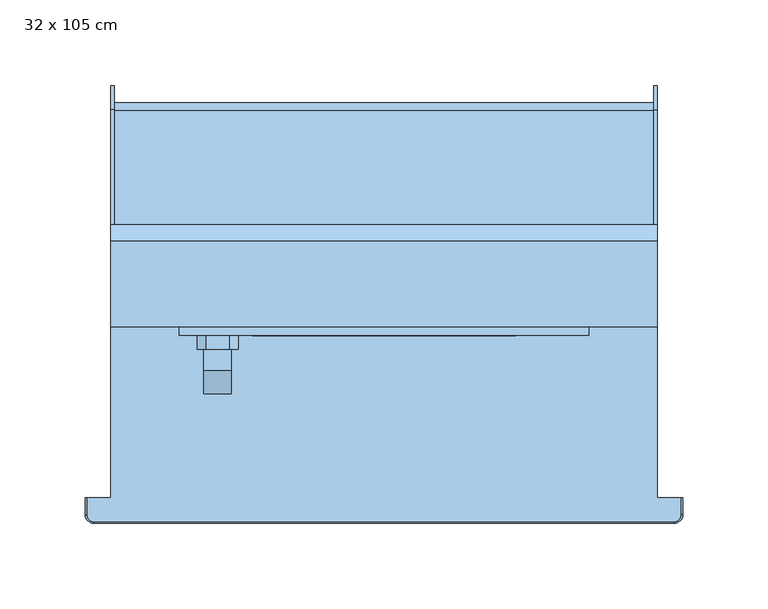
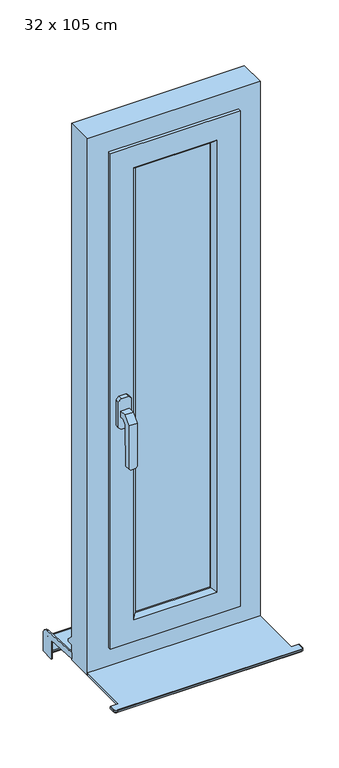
"""IFC4 building model written with IfcOpenShell, lengths in millimetres: window geometry, Fenêtre type 1 : 32 x 105 cm."""

from ifc_helpers import new_model, si_unit, frame, origin, place, context, project, spatial, polyline, circle_curve, outline, extrude, faceted_brep, source, transform, mapped, element, save
from ifc_brep_helpers import plane_surface, cylinder_surface, revolved_surface, advanced_brep


def window_32_x_105_cm_0fb57c5f(model_context):
    return source(origin(), model_context, "Body", "SolidModel", [
        faceted_brep([(-105.5, -13.0, 1306.0), (-89.5, -13.0, 1306.0), (-89.5, -13.0, 1294.0), (-105.5, -13.0, 1294.0), (-105.5, -25.4852814, 1306.0), (-89.5, -25.4852814, 1306.0), (-89.5, -39.0, 1292.4852814), (-89.5, -39.0, 1208.5355339), (-89.5, -29.7580139, 1208.5355339), (-89.5, -27.0099909, 1287.2286157), (-89.5, -27.0, 1287.5147186), (-89.5, -20.5147186, 1294.0), (-105.5, -20.5147186, 1294.0), (-105.5, -27.0, 1287.5147186), (-105.5, -27.0, 1287.2282668), (-105.5, -29.7580139, 1208.5355339), (-105.5, -39.0, 1208.5355339), (-105.5, -39.0, 1292.4852814), (-93.0355339, -39.0, 1205.0), (-101.9644661, -39.0, 1205.0), (-101.9644661, -29.8814775, 1205.0), (-93.0355339, -29.8814775, 1205.0)], [[[0, 1, 2, 3]], [[1, 0, 4, 5]], [[2, 1, 5, 6, 7, 8, 9, 10, 11]], [[3, 2, 11, 12]], [[0, 3, 12, 13, 14, 15, 16, 17, 4]], [[5, 4, 17, 6]], [[11, 10, 13, 12]], [[18, 19, 20, 21]], [[6, 17, 16, 19, 18, 7]], [[13, 10, 9, 14]], [[14, 9, 8, 21, 20, 15]], [[8, 7, 18, 21]], [[16, 15, 20, 19]]]),
        extrude(outline(polyline([(1330.0, -104.5), (1325.0, -109.5), (1275.0, -109.5), (1270.0, -104.5), (1270.0, -90.5), (1275.0, -85.5), (1325.0, -85.5), (1330.0, -90.5), (1330.0, -104.5)])), frame((0.0, -13.0, 0.0), z_axis=(0.0, 1.0, 0.0), x_axis=(0.0, 0.0, 1.0)), (0.0, 0.0, 1.0), 8.0),
        advanced_brep(
        [(-160.0, 115.0, 762.0), (-160.0, 115.0, 799.2138833), (-160.0, 50.0, 802.620389), (-160.0, 50.0, 814.1361709), (-160.0, 127.2850393, 810.0858337), (-160.0, 141.5, 795.1063906), (-160.0, 141.5, 762.0), (160.0, 115.0, 799.2138833), (160.0, 115.0, 762.0), (160.0, 141.5, 762.0), (160.0, 141.5, 795.1063906), (160.0, 127.2850393, 810.0858337), (160.0, 50.0, 814.1361709), (160.0, 50.0, 802.620389), (-158.0, 50.0, 814.1361709), (158.0, 50.0, 814.1361709), (158.0, 50.0, 804.1224475), (-158.0, 50.0, 804.1224475), (-158.0, 126.7616798, 800.0995383), (158.0, 126.7616798, 800.0995383), (158.0, 131.5, 795.1063906), (158.0, 131.5, 762.0), (-158.0, 131.5, 762.0), (-158.0, 131.5, 795.1063906), (-158.0, 130.0, 762.0), (-158.0, 115.0, 762.0), (-158.0, 141.5, 762.0), (158.0, 141.5, 762.0), (158.0, 115.0, 762.0), (158.0, 130.0, 762.0), (-158.0, 120.0, 772.0), (158.0, 120.0, 772.0), (-158.0, 121.0606602, 773.0606602), (158.0, 121.0606602, 773.0606602), (-158.0, 130.0, 764.1213203), (158.0, 130.0, 764.1213203), (-158.0, 130.0, 795.0728058), (158.0, 130.0, 795.0728058), (-158.0, 115.0, 799.2138833), (-158.0, 126.649637, 798.6033517), (158.0, 126.649637, 798.6033517), (158.0, 115.0, 799.2138833), (158.0, 127.2850393, 810.0858337), (158.0, 141.5, 795.1063906), (-158.0, 141.5, 795.1063906), (-158.0, 127.2850393, 810.0858337)],
        [
            (0, 1),
            (1, 2),
            (2, 3),
            (3, 4),
            (4, 5, circle_curve(frame((-160.0, 126.5, 795.1063906), z_axis=(-1.0, 0.0, 0.0), x_axis=(0.0, 0.05233595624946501, 0.9986295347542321)), 15.0)),
            (5, 6),
            (6, 0),
            (7, 8),
            (8, 9),
            (9, 10),
            (10, 11, circle_curve(frame((160.0, 126.5, 795.1063906), z_axis=(1.0, 0.0, 0.0), x_axis=(0.0, 1.0, 0.0)), 15.0)),
            (11, 12),
            (12, 13),
            (13, 7),
            (14, 3),
            (2, 13),
            (12, 15),
            (15, 16),
            (16, 17),
            (17, 14),
            (18, 17),
            (16, 19),
            (19, 18),
            (20, 21),
            (21, 22),
            (22, 23),
            (23, 20),
            (24, 25),
            (25, 0),
            (6, 26),
            (26, 22),
            (21, 27),
            (27, 9),
            (8, 28),
            (28, 29),
            (29, 24),
            (30, 24),
            (29, 31),
            (31, 30),
            (32, 30),
            (31, 33),
            (33, 32),
            (34, 32),
            (33, 35),
            (35, 34),
            (36, 34),
            (35, 37),
            (37, 36),
            (38, 39),
            (39, 40),
            (40, 41),
            (41, 7),
            (1, 38),
            (38, 25),
            (36, 39, circle_curve(frame((-158.0, 126.4646089, 795.0728058), z_axis=(1.0, 0.0, 0.0), x_axis=(0.0, -1.0, 0.0)), 3.5353911)),
            (28, 41),
            (40, 37, circle_curve(frame((158.0, 126.4646089, 795.0728058), z_axis=(-1.0, 0.0, 0.0), x_axis=(0.0, -1.0, 0.0)), 3.5353911)),
            (19, 20, circle_curve(frame((158.0, 126.5, 795.1063906), z_axis=(-1.0, 0.0, 0.0), x_axis=(0.0, -1.0, 0.0)), 5.0)),
            (23, 18, circle_curve(frame((-158.0, 126.5, 795.1063906), z_axis=(1.0, 0.0, 0.0), x_axis=(0.0, -1.0, 0.0)), 5.0)),
            (15, 42),
            (42, 43, circle_curve(frame((158.0, 126.5, 795.1063906), z_axis=(-1.0, 0.0, 0.0), x_axis=(0.0, 1.0, 0.0)), 15.0)),
            (43, 27),
            (43, 10),
            (42, 11),
            (26, 44),
            (44, 45, circle_curve(frame((-158.0, 126.5, 795.1063906), z_axis=(1.0, 0.0, 0.0), x_axis=(0.0, 0.05233595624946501, 0.9986295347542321)), 15.0)),
            (45, 14),
            (45, 4),
            (44, 5),
        ],
        [
            plane_surface(frame((-160.0, 50.0, 802.620389), z_axis=(-1.0, 0.0, 0.0), x_axis=(0.0, 0.0, 1.0))),
            plane_surface(frame((160.0, 50.0, 802.620389), z_axis=(1.0, 0.0, 0.0), x_axis=(0.0, 0.0, -1.0))),
            plane_surface(frame((-160.0, 50.0, 802.620389), z_axis=(0.0, -1.0, 0.0), x_axis=(1.0, 0.0, 0.0))),
            plane_surface(frame((-160.0, 50.0, 804.1224475), z_axis=(0.0, 0.05233595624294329, 0.9986295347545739), x_axis=(1.0, 0.0, 0.0))),
            plane_surface(frame((-160.0, 131.5, 795.1063906), z_axis=(0.0, 1.0, 0.0), x_axis=(1.0, 0.0, 0.0))),
            plane_surface(frame((-160.0, 131.5, 762.0), z_axis=(0.0, 0.0, -1.0), x_axis=(1.0, 0.0, 0.0))),
            plane_surface(frame((-160.0, 130.0, 762.0), z_axis=(0.0, -0.7071067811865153, -0.7071067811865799), x_axis=(1.0, 0.0, 0.0))),
            plane_surface(frame((-160.0, 120.0, 772.0), z_axis=(0.0, -0.7071067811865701, 0.707106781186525), x_axis=(1.0, 0.0, 0.0))),
            plane_surface(frame((-160.0, 121.0606602, 773.0606602), z_axis=(0.0, 0.7071067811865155, 0.7071067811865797), x_axis=(1.0, 0.0, 0.0))),
            plane_surface(frame((-160.0, 130.0, 764.1213203), z_axis=(0.0, -1.0, 0.0), x_axis=(1.0, 0.0, 0.0))),
            plane_surface(frame((-160.0, 126.649637, 798.6033517), z_axis=(0.0, -0.05233595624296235, -0.998629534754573), x_axis=(1.0, 0.0, 0.0))),
            plane_surface(frame((-158.0, 130.0, 798.4277666), z_axis=(1.0, 0.0, 0.0), x_axis=(0.0, -0.9986295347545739, 0.05233595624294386))),
            plane_surface(frame((-160.0, 115.0, 762.0), z_axis=(0.0, -1.0, 0.0), x_axis=(1.0, 0.0, 0.0))),
            plane_surface(frame((158.0, 130.0, 798.4277666), z_axis=(-1.0, 0.0, 0.0), x_axis=(0.0, 0.0, -1.0))),
            plane_surface(frame((158.0, 115.0, 762.0), z_axis=(0.0, -1.0, 0.0), x_axis=(1.0, 0.0, 0.0))),
            cylinder_surface(frame((160.0, 126.5, 795.1063906), z_axis=(-1.0, 0.0, 0.0), x_axis=(0.0, -1.0, 0.0)), 5.0),
            revolved_surface(polyline([(158.0, 122.9292178, 795.0728058), (-158.0, 122.9292178, 795.0728058)]), (160.0, 126.4646089, 795.0728058), (1.0, 0.0, 0.0)),
            plane_surface(frame((158.0, 131.5, 762.0), z_axis=(-1.0, 0.0, 0.0), x_axis=(0.0, 0.0, 1.0))),
            plane_surface(frame((158.0, 141.5, 762.0), z_axis=(0.0, 1.0, 0.0), x_axis=(0.0, 0.0, 1.0))),
            cylinder_surface(frame((160.0, 126.5, 795.1063906), z_axis=(1.0, 0.0, 0.0), x_axis=(0.0, 1.0, 0.0)), 15.0),
            plane_surface(frame((158.0, 127.2850393, 810.0858337), z_axis=(0.0, 0.05233595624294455, 0.9986295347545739), x_axis=(0.0, -0.9986295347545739, 0.05233595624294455))),
            plane_surface(frame((-158.0, 50.0, 814.1361709), z_axis=(1.0, 0.0, 0.0), x_axis=(0.0, -0.9986295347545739, 0.05233595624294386))),
            plane_surface(frame((-160.0, 50.0, 814.1361709), z_axis=(0.0, 0.05233595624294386, 0.9986295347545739), x_axis=(1.0, 0.0, 0.0))),
            cylinder_surface(frame((-160.0, 126.5, 795.1063906), z_axis=(-1.0, 0.0, 0.0), x_axis=(0.0, 0.05233595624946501, 0.9986295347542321)), 15.0),
            plane_surface(frame((-158.0, 141.5, 795.1063906), z_axis=(0.0, 1.0, 0.0), x_axis=(0.0, 0.0, -1.0))),
        ],
        [
            (0, [[1, 2, 3, 4, 5, 6, 7]]),
            (1, [[8, 9, 10, 11, 12, 13, 14]]),
            (2, [[15, -3, 16, -13, 17, 18, 19, 20]]),
            (3, [[21, -19, 22, 23]]),
            (4, [[24, 25, 26, 27]]),
            (5, [[28, 29, -7, 30, 31, -25, 32, 33, -9, 34, 35, 36]]),
            (6, [[37, -36, 38, 39]]),
            (7, [[40, -39, 41, 42]]),
            (8, [[43, -42, 44, 45]]),
            (9, [[46, -45, 47, 48]]),
            (10, [[49, 50, 51, 52, -14, -16, -2, 53]]),
            (11, [[54, -28, -37, -40, -43, -46, 55, -49]]),
            (12, [[-54, -53, -1, -29]]),
            (13, [[-35, 56, -51, 57, -47, -44, -41, -38]]),
            (14, [[-56, -34, -8, -52]]),
            (15, [[58, -27, 59, -23]]),
            (16, [[-55, -48, -57, -50]]),
            (17, [[-32, -24, -58, -22, -18, 60, 61, 62]]),
            (18, [[-33, -62, 63, -10]]),
            (19, [[-11, -63, -61, 64]]),
            (20, [[-64, -60, -17, -12]]),
            (21, [[-20, -21, -59, -26, -31, 65, 66, 67]]),
            (22, [[-4, -15, -67, 68]]),
            (23, [[-5, -68, -66, 69]]),
            (24, [[-6, -69, -65, -30]]),
        ],
    ),
        extrude(outline(polyline([(-70.0, 5.0), (-70.0, 25.0), (70.0, 25.0), (70.0, 5.0), (-70.0, 5.0)])), frame((0.0, 0.0, 890.0), z_axis=(0.0, 0.0, 1.0), x_axis=(1.0, 0.0, 0.0)), (0.0, 0.0, 1.0), 870.0),
        faceted_brep([(-120.0, -5.0, 840.0), (-120.0, 35.0, 840.0), (120.0, 35.0, 840.0), (120.0, -5.0, 840.0), (120.0, 35.0, 1810.0), (120.0, -5.0, 1810.0), (-120.0, 35.0, 1810.0), (77.0710678, 35.0, 1767.0710678), (-77.0710678, 35.0, 1767.0710678), (-77.0710678, 35.0, 882.9289322), (77.0710678, 35.0, 882.9289322), (-120.0, -5.0, 1810.0), (77.0710678, -5.0, 882.9289322), (-77.0710678, -5.0, 882.9289322), (-77.0710678, -5.0, 1767.0710678), (77.0710678, -5.0, 1767.0710678), (-70.0, 2.0710678, 890.0), (70.0, 2.0710678, 890.0), (70.0, 2.0710678, 1760.0), (70.0, 27.9289322, 890.0), (70.0, 27.9289322, 1760.0), (-70.0, 27.9289322, 890.0), (-70.0, 2.0710678, 1760.0), (-70.0, 27.9289322, 1760.0)], [[[0, 1, 2, 3]], [[3, 2, 4, 5]], [[2, 1, 6, 4], [7, 8, 9, 10]], [[5, 11, 0, 3], [12, 13, 14, 15]], [[16, 13, 12, 17]], [[17, 12, 15, 18]], [[19, 17, 18, 20]], [[9, 21, 19, 10]], [[10, 19, 20, 7]], [[11, 6, 1, 0]], [[22, 14, 13, 16]], [[23, 22, 16, 21]], [[8, 23, 21, 9]], [[21, 16, 17, 19]], [[5, 4, 6, 11]], [[18, 15, 14, 22]], [[7, 20, 23, 8]], [[20, 18, 22, 23]]]),
        faceted_brep([(160.0, 50.0, 800.0), (160.0, 50.0, 830.0), (160.0, 60.0, 830.0), (160.0, 60.0, 835.0), (160.0, 50.0, 845.0), (160.0, 50.0, 1850.0), (160.0, 0.0, 1850.0), (160.0, 0.0, 800.0), (-160.0, 50.0, 800.0), (-160.0, 50.0, 830.0), (-160.0, 60.0, 830.0), (-160.0, 60.0, 835.0), (-160.0, 50.0, 845.0), (-115.0, 50.0, 845.0), (-110.0, 45.0, 850.0), (110.0, 45.0, 850.0), (115.0, 50.0, 845.0), (-160.0, 50.0, 1850.0), (115.0, 50.0, 1805.0), (-115.0, 50.0, 1805.0), (-160.0, 0.0, 1850.0), (-160.0, 0.0, 800.0), (120.0, 0.0, 840.0), (-120.0, 0.0, 840.0), (-120.0, 0.0, 1810.0), (120.0, 0.0, 1810.0), (120.0, 35.0, 840.0), (-120.0, 35.0, 840.0), (-120.0, 35.0, 1810.0), (120.0, 35.0, 1810.0), (110.0, 35.0, 850.0), (-110.0, 35.0, 850.0), (-110.0, 35.0, 1800.0), (110.0, 35.0, 1800.0), (-110.0, 45.0, 1800.0), (110.0, 45.0, 1800.0)], [[[0, 1, 2, 3, 4, 5, 6, 7]], [[1, 0, 8, 9]], [[2, 1, 9, 10]], [[3, 2, 10, 11]], [[3, 11, 12, 13, 14, 15, 16, 4]], [[17, 5, 4, 16, 18, 19, 13, 12]], [[7, 6, 20, 21], [22, 23, 24, 25]], [[0, 7, 21, 8]], [[8, 21, 20, 17, 12, 11, 10, 9]], [[23, 22, 26, 27]], [[27, 28, 24, 23]], [[22, 25, 29, 26]], [[29, 28, 27, 26], [30, 31, 32, 33]], [[31, 30, 15, 14]], [[34, 32, 31, 14]], [[33, 35, 15, 30]], [[35, 18, 16, 15]], [[19, 34, 14, 13]], [[5, 17, 20, 6]], [[28, 29, 25, 24]], [[19, 18, 35, 34]], [[33, 32, 34, 35]]]),
        advanced_brep(
        [(160.0, -100.0, 805.0), (160.0, 0.0, 805.0), (-160.0, 0.0, 805.0), (-160.0, -100.0, 805.0), (-173.9971508, -100.0, 805.0), (-173.9971508, -110.0, 805.0), (-170.0, -113.9971508, 805.0), (170.0, -113.9971508, 805.0), (173.9971508, -110.0, 805.0), (173.9971508, -100.0, 805.0), (-160.0, -100.0, 800.0), (-160.0, 0.0, 800.0), (160.0, 0.0, 800.0), (160.0, -100.0, 800.0), (173.9971508, -100.0, 800.0), (173.9971508, -110.0, 800.0), (170.0, -113.9971508, 800.0), (-170.0, -113.9971508, 800.0), (-173.9971508, -110.0, 800.0), (-173.9971508, -100.0, 800.0), (-175.0, -110.0, 801.0028492), (-175.0, -110.0, 803.9971508), (-175.0, -100.0, 803.9971508), (-175.0, -100.0, 801.0028492), (175.0, -100.0, 803.9971508), (175.0, -100.0, 801.0028492), (175.0, -110.0, 803.9971508), (175.0, -110.0, 801.0028492), (170.0, -115.0, 801.0028492), (170.0, -115.0, 803.9971508), (-170.0, -115.0, 803.9971508), (-170.0, -115.0, 801.0028492)],
        [
            (0, 1),
            (1, 2),
            (2, 3),
            (3, 4),
            (4, 5),
            (5, 6, circle_curve(frame((-170.0, -110.0, 805.0), z_axis=(0.0, 0.0, 1.0), x_axis=(-1.0, 0.0, 0.0)), 3.9971508)),
            (6, 7),
            (7, 8, circle_curve(frame((170.0, -110.0, 805.0), z_axis=(0.0, 0.0, 1.0), x_axis=(0.0, -1.0, 0.0)), 3.9971508)),
            (8, 9),
            (9, 0),
            (10, 11),
            (11, 12),
            (12, 13),
            (13, 14),
            (14, 15),
            (15, 16, circle_curve(frame((170.0, -110.0, 800.0), z_axis=(0.0, 0.0, -1.0), x_axis=(0.0, -1.0, 0.0)), 3.9971508)),
            (16, 17),
            (17, 18, circle_curve(frame((-170.0, -110.0, 800.0), z_axis=(0.0, 0.0, -1.0), x_axis=(-1.0, 0.0, 0.0)), 3.9971508)),
            (18, 19),
            (19, 10),
            (20, 21),
            (21, 22),
            (22, 23),
            (23, 20),
            (3, 10),
            (19, 23),
            (22, 4),
            (2, 11),
            (1, 12),
            (0, 13),
            (9, 24),
            (24, 25),
            (25, 14),
            (24, 26),
            (26, 27),
            (27, 25),
            (28, 29),
            (29, 30),
            (30, 31),
            (31, 28),
            (28, 27, circle_curve(frame((170.0, -110.0, 801.0028492), z_axis=(0.0, 0.0, 1.0), x_axis=(0.0, -1.0, 0.0)), 5.0)),
            (26, 29, circle_curve(frame((170.0, -110.0, 803.9971508), z_axis=(0.0, 0.0, -1.0), x_axis=(0.0, -1.0, 0.0)), 5.0)),
            (20, 31, circle_curve(frame((-170.0, -110.0, 801.0028492), z_axis=(0.0, 0.0, 1.0), x_axis=(0.0, -1.0, 0.0)), 5.0)),
            (30, 21, circle_curve(frame((-170.0, -110.0, 803.9971508), z_axis=(0.0, 0.0, -1.0), x_axis=(0.0, -1.0, 0.0)), 5.0)),
            (21, 5),
            (18, 20),
            (30, 6),
            (17, 31),
            (29, 7),
            (16, 28),
            (26, 8),
            (15, 27),
        ],
        [
            plane_surface(frame((-175.0, -100.0, 805.0), z_axis=(0.0, 0.0, 1.0), x_axis=(0.0, -1.0, 0.0))),
            plane_surface(frame((-175.0, -100.0, 800.0), z_axis=(0.0, 0.0, -1.0), x_axis=(0.0, 1.0, 0.0))),
            plane_surface(frame((-175.0, -110.0, 800.0), z_axis=(-1.0, 0.0, 0.0), x_axis=(0.0, 0.0, 1.0))),
            plane_surface(frame((-175.0, -100.0, 800.0), z_axis=(0.0, 1.0, 0.0), x_axis=(0.0, 0.0, 1.0))),
            plane_surface(frame((-160.0, -100.0, 800.0), z_axis=(-1.0, 0.0, 0.0), x_axis=(0.0, 0.0, 1.0))),
            plane_surface(frame((-160.0, 0.0, 800.0), z_axis=(0.0, 1.0, 0.0), x_axis=(0.0, 0.0, 1.0))),
            plane_surface(frame((160.0, 0.0, 800.0), z_axis=(1.0, 0.0, 0.0), x_axis=(0.0, 0.0, 1.0))),
            plane_surface(frame((160.0, -100.0, 800.0), z_axis=(0.0, 1.0, 0.0), x_axis=(0.0, 0.0, 1.0))),
            plane_surface(frame((175.0, -100.0, 800.0), z_axis=(1.0, 0.0, 0.0), x_axis=(0.0, 0.0, 1.0))),
            plane_surface(frame((170.0, -115.0, 800.0), z_axis=(0.0, -1.0, 0.0), x_axis=(0.0, 0.0, 1.0))),
            cylinder_surface(frame((170.0, -110.0, 805.0), z_axis=(0.0, 0.0, -1.0), x_axis=(0.0, -1.0, 0.0)), 5.0),
            cylinder_surface(frame((-170.0, -110.0, 805.0), z_axis=(0.0, 0.0, -1.0), x_axis=(0.0, -1.0, 0.0)), 5.0),
            plane_surface(frame((-173.9971508, -100.0, 805.0), z_axis=(-0.7071067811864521, 0.0, 0.707106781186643), x_axis=(0.0, -1.0, 0.0))),
            plane_surface(frame((-175.0, -100.0, 801.0028492), z_axis=(-0.7071067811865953, 0.0, -0.7071067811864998), x_axis=(0.0, -1.0, 0.0))),
            revolved_surface(polyline([(-175.0, -110.0, 803.9971508), (-173.9971508, -110.0, 805.0)]), (-170.0, -110.0, 805.0), (0.0, 0.0, 1.0)),
            revolved_surface(polyline([(-173.9971508, -110.0, 800.0), (-175.0, -110.0, 801.0028492)]), (-170.0, -110.0, 805.0), (0.0, 0.0, 1.0)),
            plane_surface(frame((-170.0, -113.9971508, 805.0), z_axis=(0.0, -0.7071067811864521, 0.707106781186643), x_axis=(1.0, 0.0, 0.0))),
            plane_surface(frame((-170.0, -115.0, 801.0028492), z_axis=(0.0, -0.7071067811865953, -0.7071067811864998), x_axis=(1.0, 0.0, 0.0))),
            revolved_surface(polyline([(170.0, -115.0, 803.9971508), (170.0, -113.9971508, 805.0)]), (170.0, -110.0, 805.0), (0.0, 0.0, 1.0)),
            revolved_surface(polyline([(170.0, -113.9971508, 800.0), (170.0, -115.0, 801.0028492)]), (170.0, -110.0, 805.0), (0.0, 0.0, 1.0)),
            plane_surface(frame((173.9971508, -110.0, 805.0), z_axis=(0.7071067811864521, 0.0, 0.707106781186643), x_axis=(0.0, 1.0, 0.0))),
            plane_surface(frame((175.0, -110.0, 801.0028492), z_axis=(0.7071067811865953, 0.0, -0.7071067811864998), x_axis=(0.0, 1.0, 0.0))),
        ],
        [
            (0, [[1, 2, 3, 4, 5, 6, 7, 8, 9, 10]]),
            (1, [[11, 12, 13, 14, 15, 16, 17, 18, 19, 20]]),
            (2, [[21, 22, 23, 24]]),
            (3, [[25, -20, 26, -23, 27, -4]]),
            (4, [[-3, 28, -11, -25]]),
            (5, [[-2, 29, -12, -28]]),
            (6, [[-1, 30, -13, -29]]),
            (7, [[-30, -10, 31, 32, 33, -14]]),
            (8, [[-32, 34, 35, 36]]),
            (9, [[37, 38, 39, 40]]),
            (10, [[-37, 41, -35, 42]]),
            (11, [[-21, 43, -39, 44]]),
            (12, [[45, -5, -27, -22]]),
            (13, [[46, -24, -26, -19]]),
            (14, [[-45, -44, 47, -6]]),
            (15, [[-46, -18, 48, -43]]),
            (16, [[-47, -38, 49, -7]]),
            (17, [[-48, -17, 50, -40]]),
            (18, [[-49, -42, 51, -8]]),
            (19, [[-50, -16, 52, -41]]),
            (20, [[-51, -34, -31, -9]]),
            (21, [[-52, -15, -33, -36]]),
        ],
    ),
    ])


if __name__ == "__main__":
    model = new_model("IFC4")
    model_context = context("Model", 3, world=origin())
    ifc_project = project(units=[si_unit("LENGTHUNIT", "METRE", prefix="MILLI")], contexts=[model_context])
    site = spatial("IfcSite", under=ifc_project)
    building = spatial("IfcBuilding", under=site)
    placement = place(None, origin())
    window_32_x_105_cm_shape = window_32_x_105_cm_0fb57c5f(model_context)
    element("IfcWindow", 1, ObjectType="Fenêtre type 1 : 32 x 105 cm", at=placement, inside=building, context=model_context, shape_type="MappedRepresentation", body=[
        mapped(window_32_x_105_cm_shape, transform((0.0, 0.0, 0.0), x_axis=(1.0, 0.0, 0.0), y_axis=(0.0, 1.0, 0.0), z_axis=(0.0, 0.0, 1.0))),
    ])
    save(model, "model.ifc")
